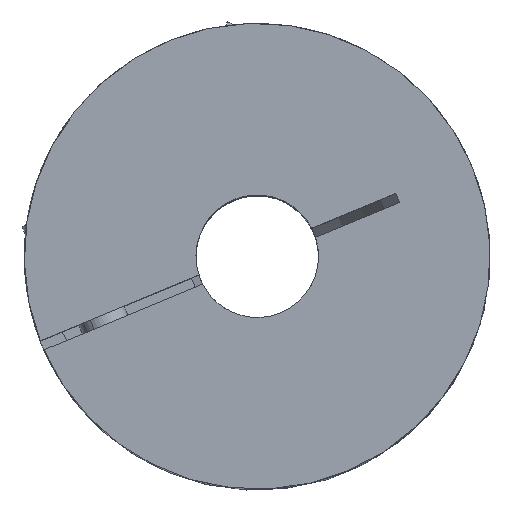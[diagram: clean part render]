
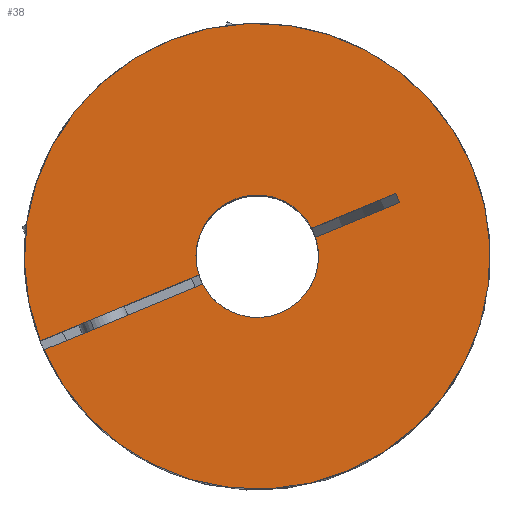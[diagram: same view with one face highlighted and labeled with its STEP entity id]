
A CAD part, top view. The second image highlights one B-rep face of the part: STEP entity #38.
In plain terms, the highlighted planar face has unit normal (0, 0, 1).
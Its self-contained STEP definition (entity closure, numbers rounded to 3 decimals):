
#38 = ADVANCED_FACE ( 'NONE', ( #4925 ), #3665, .F. ) ;
#203 = ORIENTED_EDGE ( 'NONE', *, *, #6013, .F. ) ;
#274 = VECTOR ( 'NONE', #9216, 1000. ) ;
#755 = CARTESIAN_POINT ( 'NONE',  ( 10.264, 42.106, 161.214 ) ) ;
#846 = CARTESIAN_POINT ( 'NONE',  ( 21.775, 46.874, 161.214 ) ) ;
#994 = CARTESIAN_POINT ( 'NONE',  ( 22.54, 45.026, 161.214 ) ) ;
#1005 = ORIENTED_EDGE ( 'NONE', *, *, #10348, .T. ) ;
#1139 = EDGE_CURVE ( 'NONE', #2867, #10337, #10529, .T. ) ;
#1219 = EDGE_CURVE ( 'NONE', #6020, #9910, #3555, .T. ) ;
#1259 = ORIENTED_EDGE ( 'NONE', *, *, #1139, .T. ) ;
#1438 = EDGE_LOOP ( 'NONE', ( #10084, #2005, #2439, #1005, #3664, #1259, #10072, #203, #9184 ) ) ;
#1564 = DIRECTION ( 'NONE',  ( 0., 0., -1. ) ) ;
#1838 = CIRCLE ( 'NONE', #10392, 12.5 ) ;
#1888 = AXIS2_PLACEMENT_3D ( 'NONE', #4542, #10107, #3621 ) ;
#1904 = DIRECTION ( 'NONE',  ( 0., 0., -1. ) ) ;
#1987 = LINE ( 'NONE', #5639, #6951 ) ;
#2005 = ORIENTED_EDGE ( 'NONE', *, *, #8920, .F. ) ;
#2094 = CARTESIAN_POINT ( 'NONE',  ( 11.029, 40.258, 161.214 ) ) ;
#2191 = CARTESIAN_POINT ( 'NONE',  ( 10.264, 42.106, 161.214 ) ) ;
#2383 = LINE ( 'NONE', #755, #11723 ) ;
#2439 = ORIENTED_EDGE ( 'NONE', *, *, #4610, .F. ) ;
#2770 = LINE ( 'NONE', #7336, #274 ) ;
#2867 = VERTEX_POINT ( 'NONE', #846 ) ;
#3503 = CARTESIAN_POINT ( 'NONE',  ( -33.611, 23.932, 161.214 ) ) ;
#3555 = LINE ( 'NONE', #2094, #10375 ) ;
#3611 = AXIS2_PLACEMENT_3D ( 'NONE', #9177, #3618, #10106 ) ;
#3618 = DIRECTION ( 'NONE',  ( 0., 0., -1. ) ) ;
#3621 = DIRECTION ( 'NONE',  ( -0.924, -0.383, 0. ) ) ;
#3664 = ORIENTED_EDGE ( 'NONE', *, *, #8022, .T. ) ;
#3665 = PLANE ( 'NONE',  #1888 ) ;
#4025 = DIRECTION ( 'NONE',  ( 0.924, 0.383, 0. ) ) ;
#4542 = CARTESIAN_POINT ( 'NONE',  ( 10.646, 41.182, 161.214 ) ) ;
#4610 = EDGE_CURVE ( 'NONE', #7937, #11050, #10153, .T. ) ;
#4662 = EDGE_CURVE ( 'NONE', #9539, #9910, #1838, .T. ) ;
#4925 = FACE_OUTER_BOUND ( 'NONE', #1438, .T. ) ;
#5179 = DIRECTION ( 'NONE',  ( 0., 0., -1. ) ) ;
#5639 = CARTESIAN_POINT ( 'NONE',  ( 11.029, 40.258, 161.214 ) ) ;
#5710 = CARTESIAN_POINT ( 'NONE',  ( -0.483, 35.49, 161.214 ) ) ;
#5790 = AXIS2_PLACEMENT_3D ( 'NONE', #7481, #1904, #8447 ) ;
#5940 = CARTESIAN_POINT ( 'NONE',  ( 39.684, 52.127, 161.214 ) ) ;
#6013 = EDGE_CURVE ( 'NONE', #9539, #10595, #1987, .T. ) ;
#6020 = VERTEX_POINT ( 'NONE', #12078 ) ;
#6040 = AXIS2_PLACEMENT_3D ( 'NONE', #10790, #5179, #11718 ) ;
#6051 = CARTESIAN_POINT ( 'NONE',  ( -1.248, 37.337, 161.214 ) ) ;
#6549 = CIRCLE ( 'NONE', #3611, 12.5 ) ;
#6951 = VECTOR ( 'NONE', #11194, 1000. ) ;
#7146 = CARTESIAN_POINT ( 'NONE',  ( 10.646, 41.182, 161.214 ) ) ;
#7336 = CARTESIAN_POINT ( 'NONE',  ( 39.684, 52.127, 161.214 ) ) ;
#7481 = CARTESIAN_POINT ( 'NONE',  ( 10.646, 41.182, 161.214 ) ) ;
#7741 = VECTOR ( 'NONE', #4025, 1000. ) ;
#7937 = VERTEX_POINT ( 'NONE', #3503 ) ;
#8022 = EDGE_CURVE ( 'NONE', #8643, #2867, #6549, .T. ) ;
#8080 = DIRECTION ( 'NONE',  ( -0.924, -0.383, 0. ) ) ;
#8447 = DIRECTION ( 'NONE',  ( -0.924, -0.383, 0. ) ) ;
#8643 = VERTEX_POINT ( 'NONE', #6051 ) ;
#8920 = EDGE_CURVE ( 'NONE', #11050, #6020, #11484, .T. ) ;
#9153 = DIRECTION ( 'NONE',  ( 0.924, 0.383, 0. ) ) ;
#9177 = CARTESIAN_POINT ( 'NONE',  ( 10.646, 41.182, 161.214 ) ) ;
#9184 = ORIENTED_EDGE ( 'NONE', *, *, #4662, .T. ) ;
#9216 = DIRECTION ( 'NONE',  ( 0.383, -0.924, 0. ) ) ;
#9378 = DIRECTION ( 'NONE',  ( 0.924, 0.383, 0. ) ) ;
#9539 = VERTEX_POINT ( 'NONE', #994 ) ;
#9541 = CARTESIAN_POINT ( 'NONE',  ( 54.53, 59.359, 161.214 ) ) ;
#9910 = VERTEX_POINT ( 'NONE', #5710 ) ;
#10010 = CARTESIAN_POINT ( 'NONE',  ( 38.918, 53.975, 161.214 ) ) ;
#10072 = ORIENTED_EDGE ( 'NONE', *, *, #10917, .T. ) ;
#10084 = ORIENTED_EDGE ( 'NONE', *, *, #1219, .F. ) ;
#10106 = DIRECTION ( 'NONE',  ( -0.924, -0.383, 0. ) ) ;
#10107 = DIRECTION ( 'NONE',  ( 0., 0., -1. ) ) ;
#10153 = CIRCLE ( 'NONE', #6040, 47.5 ) ;
#10337 = VERTEX_POINT ( 'NONE', #10010 ) ;
#10348 = EDGE_CURVE ( 'NONE', #7937, #8643, #2383, .T. ) ;
#10375 = VECTOR ( 'NONE', #9378, 1000. ) ;
#10392 = AXIS2_PLACEMENT_3D ( 'NONE', #7146, #1564, #8080 ) ;
#10529 = LINE ( 'NONE', #2191, #7741 ) ;
#10595 = VERTEX_POINT ( 'NONE', #5940 ) ;
#10790 = CARTESIAN_POINT ( 'NONE',  ( 10.646, 41.182, 161.214 ) ) ;
#10917 = EDGE_CURVE ( 'NONE', #10337, #10595, #2770, .T. ) ;
#11050 = VERTEX_POINT ( 'NONE', #9541 ) ;
#11194 = DIRECTION ( 'NONE',  ( 0.924, 0.383, 0. ) ) ;
#11484 = CIRCLE ( 'NONE', #5790, 47.5 ) ;
#11718 = DIRECTION ( 'NONE',  ( -0.924, -0.383, 0. ) ) ;
#11723 = VECTOR ( 'NONE', #9153, 1000. ) ;
#12078 = CARTESIAN_POINT ( 'NONE',  ( -32.846, 22.084, 161.214 ) ) ;
